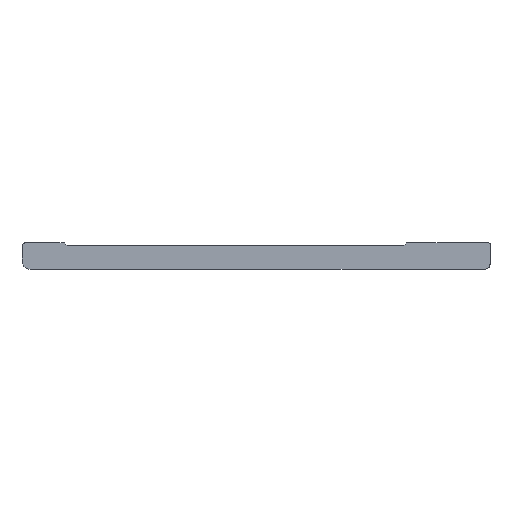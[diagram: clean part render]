
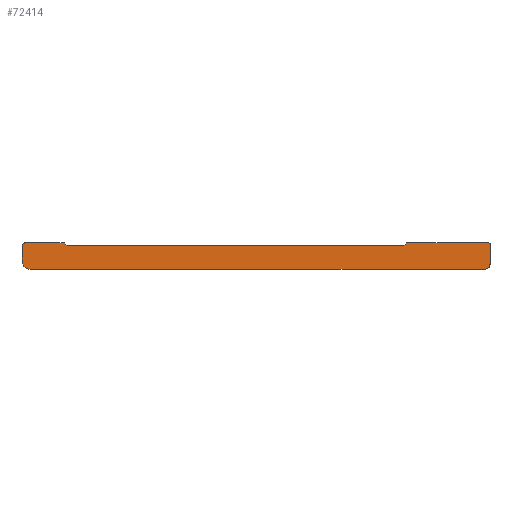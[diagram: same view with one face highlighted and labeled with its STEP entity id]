
A CAD part, front view. The second image highlights one B-rep face of the part: STEP entity #72414.
In plain terms, the highlighted planar face has unit normal (0, -1, 0).
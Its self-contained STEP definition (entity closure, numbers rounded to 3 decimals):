
#54=CIRCLE('',#75349,2.75);
#55=CIRCLE('',#76364,5.);
#56=CIRCLE('',#76367,2.5);
#57=CIRCLE('',#76369,5.);
#58=CIRCLE('',#76371,2.5);
#5852=FACE_OUTER_BOUND('',#11658,.T.);
#11658=EDGE_LOOP('',(#60824,#60825,#60826,#60827,#60828,#60829,#60830,#60831,
#60832,#60833,#60834,#60835,#60836));
#16466=LINE('',#108660,#25620);
#16480=LINE('',#108689,#25634);
#18005=LINE('',#111733,#27159);
#18011=LINE('',#111745,#27165);
#18014=LINE('',#111752,#27168);
#18017=LINE('',#111764,#27171);
#18023=LINE('',#111776,#27177);
#18024=LINE('',#111779,#27178);
#25620=VECTOR('',#88895,10.);
#25634=VECTOR('',#88925,10.);
#27159=VECTOR('',#92456,10.);
#27165=VECTOR('',#92464,10.);
#27168=VECTOR('',#92473,10.);
#27171=VECTOR('',#92490,10.);
#27177=VECTOR('',#92502,10.);
#27178=VECTOR('',#92507,10.);
#31798=VERTEX_POINT('',#108513);
#31799=VERTEX_POINT('',#108515);
#31869=VERTEX_POINT('',#108658);
#31875=VERTEX_POINT('',#108686);
#31876=VERTEX_POINT('',#108688);
#32391=VERTEX_POINT('',#111730);
#32392=VERTEX_POINT('',#111732);
#32396=VERTEX_POINT('',#111742);
#32397=VERTEX_POINT('',#111744);
#32398=VERTEX_POINT('',#111750);
#32399=VERTEX_POINT('',#111758);
#32400=VERTEX_POINT('',#111762);
#32403=VERTEX_POINT('',#111774);
#38065=EDGE_CURVE('',#31799,#31798,#54,.T.);
#38138=EDGE_CURVE('',#31869,#31798,#16466,.T.);
#38152=EDGE_CURVE('',#31876,#31875,#16480,.T.);
#39677=EDGE_CURVE('',#32392,#32391,#18005,.T.);
#39683=EDGE_CURVE('',#32397,#32396,#18011,.T.);
#39685=EDGE_CURVE('',#31875,#32392,#55,.T.);
#39687=EDGE_CURVE('',#32398,#32397,#18014,.T.);
#39688=EDGE_CURVE('',#31869,#32398,#56,.T.);
#39689=EDGE_CURVE('',#32391,#31799,#57,.T.);
#39691=EDGE_CURVE('',#32399,#31876,#58,.T.);
#39693=EDGE_CURVE('',#32400,#32399,#18017,.T.);
#39699=EDGE_CURVE('',#32403,#32400,#18023,.T.);
#39700=EDGE_CURVE('',#32396,#32403,#18024,.T.);
#60824=ORIENTED_EDGE('',*,*,#38065,.T.);
#60825=ORIENTED_EDGE('',*,*,#38138,.F.);
#60826=ORIENTED_EDGE('',*,*,#39688,.T.);
#60827=ORIENTED_EDGE('',*,*,#39687,.T.);
#60828=ORIENTED_EDGE('',*,*,#39683,.T.);
#60829=ORIENTED_EDGE('',*,*,#39700,.T.);
#60830=ORIENTED_EDGE('',*,*,#39699,.T.);
#60831=ORIENTED_EDGE('',*,*,#39693,.T.);
#60832=ORIENTED_EDGE('',*,*,#39691,.T.);
#60833=ORIENTED_EDGE('',*,*,#38152,.T.);
#60834=ORIENTED_EDGE('',*,*,#39685,.T.);
#60835=ORIENTED_EDGE('',*,*,#39677,.T.);
#60836=ORIENTED_EDGE('',*,*,#39689,.T.);
#66620=PLANE('',#78243);
#72414=ADVANCED_FACE('',(#5852),#66620,.F.);
#75349=AXIS2_PLACEMENT_3D('',#108516,#88819,#88820);
#76364=AXIS2_PLACEMENT_3D('',#111748,#92468,#92469);
#76367=AXIS2_PLACEMENT_3D('',#111754,#92476,#92477);
#76369=AXIS2_PLACEMENT_3D('',#111756,#92480,#92481);
#76371=AXIS2_PLACEMENT_3D('',#111760,#92485,#92486);
#78243=AXIS2_PLACEMENT_3D('',#117344,#99026,#99027);
#88819=DIRECTION('center_axis',(0.,-1.,0.));
#88820=DIRECTION('ref_axis',(0.882,0.,-0.471));
#88895=DIRECTION('',(0.,0.,-1.));
#88925=DIRECTION('',(0.,0.,-1.));
#92456=DIRECTION('',(1.,0.,0.));
#92464=DIRECTION('',(-0.707,0.,-0.707));
#92468=DIRECTION('center_axis',(0.,-1.,0.));
#92469=DIRECTION('ref_axis',(-0.707,0.,-0.707));
#92473=DIRECTION('',(-1.,0.,0.));
#92476=DIRECTION('center_axis',(0.,-1.,0.));
#92477=DIRECTION('ref_axis',(0.707,0.,0.707));
#92480=DIRECTION('center_axis',(0.,-1.,0.));
#92481=DIRECTION('ref_axis',(0.707,0.,-0.707));
#92485=DIRECTION('center_axis',(0.,-1.,0.));
#92486=DIRECTION('ref_axis',(-0.707,0.,0.707));
#92490=DIRECTION('',(-1.,0.,0.));
#92502=DIRECTION('',(-0.707,0.,0.707));
#92507=DIRECTION('',(-1.,0.,0.));
#99026=DIRECTION('center_axis',(0.,1.,0.));
#99027=DIRECTION('ref_axis',(-1.,0.,0.));
#108513=CARTESIAN_POINT('',(278.,40.8,2.129));
#108515=CARTESIAN_POINT('',(276.778,40.8,-0.157));
#108516=CARTESIAN_POINT('Origin',(275.25,40.8,2.129));
#108658=CARTESIAN_POINT('',(278.,40.8,14.5));
#108660=CARTESIAN_POINT('',(278.,40.8,7.25));
#108686=CARTESIAN_POINT('',(0.,40.8,4.));
#108688=CARTESIAN_POINT('',(0.,40.8,12.5));
#108689=CARTESIAN_POINT('',(0.,40.8,2.25));
#111730=CARTESIAN_POINT('',(274.,40.8,-1.));
#111732=CARTESIAN_POINT('',(5.,40.8,-1.));
#111733=CARTESIAN_POINT('',(134.375,40.8,-1.));
#111742=CARTESIAN_POINT('',(226.768,40.8,13.232));
#111744=CARTESIAN_POINT('',(228.536,40.8,15.));
#111745=CARTESIAN_POINT('',(203.08,40.8,-10.455));
#111748=CARTESIAN_POINT('Origin',(5.,40.8,4.));
#111750=CARTESIAN_POINT('',(276.5,40.8,15.));
#111752=CARTESIAN_POINT('',(134.375,40.8,15.));
#111754=CARTESIAN_POINT('Origin',(276.5,40.8,12.5));
#111756=CARTESIAN_POINT('Origin',(274.,40.8,4.));
#111758=CARTESIAN_POINT('',(2.5,40.8,15.));
#111760=CARTESIAN_POINT('Origin',(2.5,40.8,12.5));
#111762=CARTESIAN_POINT('',(25.,40.8,15.));
#111764=CARTESIAN_POINT('',(134.375,40.8,15.));
#111774=CARTESIAN_POINT('',(26.768,40.8,13.232));
#111776=CARTESIAN_POINT('',(55.563,40.8,-15.563));
#111779=CARTESIAN_POINT('',(82.759,40.8,13.232));
#117344=CARTESIAN_POINT('Origin',(247.125,40.8,9.));
